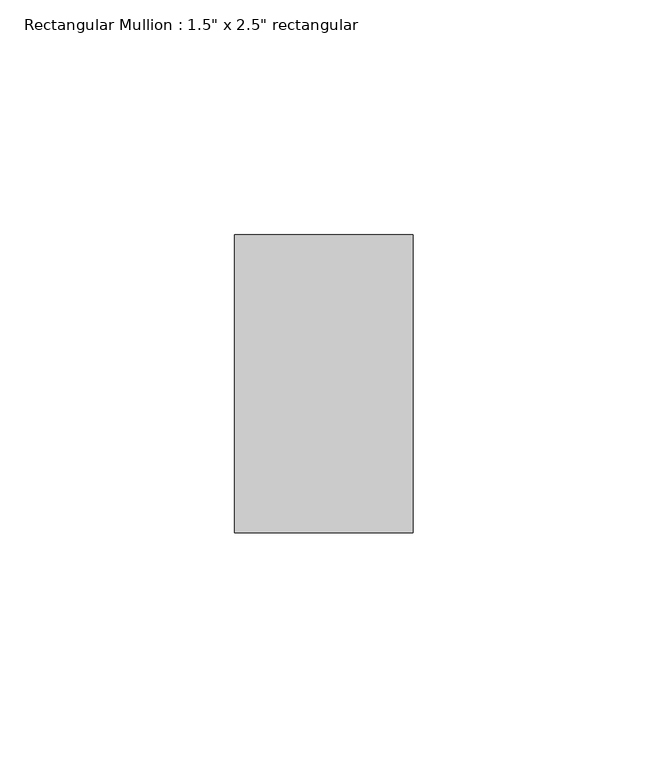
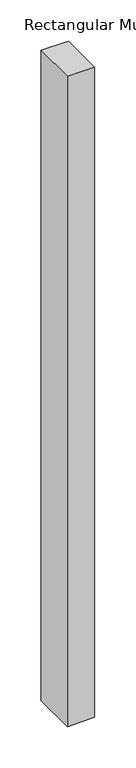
"""IFC4 building model written with IfcOpenShell, lengths in millimetres: member geometry."""

from ifc_helpers import new_model, si_unit, frame, origin, place, context, project, spatial, polyline, outline, extrude, source, transform, mapped, element, save


def member_3cb31c08(model_context):
    return source(origin(), model_context, "Body", "SweptSolid", [
        extrude(outline(polyline([(0.0, 19.05), (0.0, -19.05), (-959.6618721, -19.05), (-959.6999592, -1.1079989), (-958.9534602, 19.05), (0.0, 19.05)])), frame((0.0, -31.75, 0.0), z_axis=(0.0, 1.0, 0.0), x_axis=(0.0, 0.0, 1.0)), (0.0, 0.0, 1.0), 63.5),
    ])


if __name__ == "__main__":
    model = new_model("IFC4")
    model_context = context("Model", 3, world=origin())
    ifc_project = project(units=[si_unit("LENGTHUNIT", "METRE", prefix="MILLI")], contexts=[model_context])
    site = spatial("IfcSite", under=ifc_project)
    building = spatial("IfcBuilding", under=site)
    placement = place(None, origin())
    member_shape = member_3cb31c08(model_context)
    element("IfcMember", 1, ObjectType="Rectangular Mullion : 1.5\" x 2.5\" rectangular", at=placement, inside=building, context=model_context, shape_type="MappedRepresentation", body=[
        mapped(member_shape, transform((0.0, 0.0, 0.0), x_axis=(1.0, 0.0, 0.0), y_axis=(0.0, 1.0, 0.0), z_axis=(0.0, 0.0, 1.0))),
    ])
    save(model, "model.ifc")
